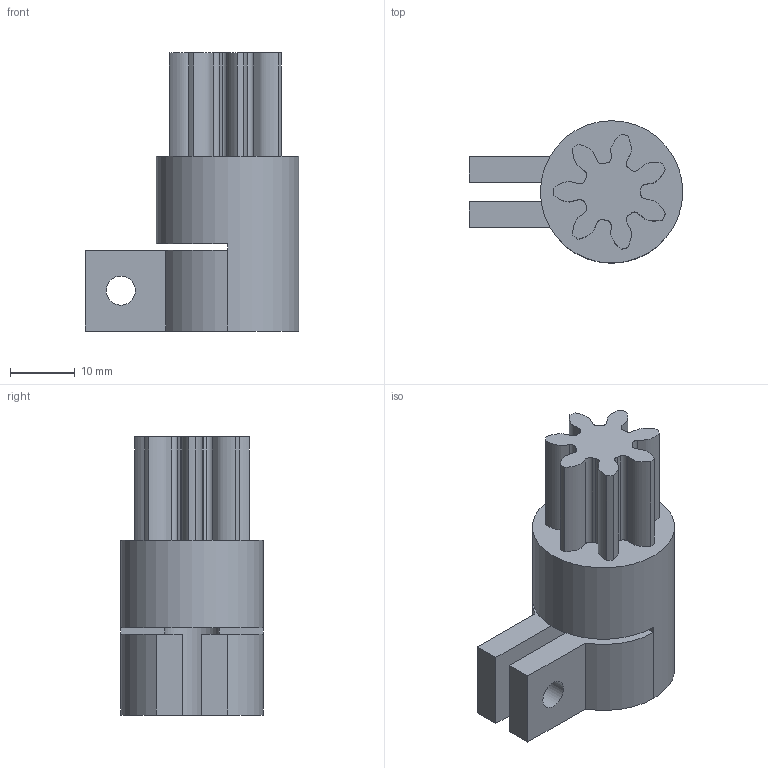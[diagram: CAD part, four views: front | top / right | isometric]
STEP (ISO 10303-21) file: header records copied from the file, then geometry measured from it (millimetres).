
FILE_DESCRIPTION(('STEP AP242 Edition 2','STEP AP242 Edition 2''CAx-IF Rec.Pracs.---Representation and Presentation of Product Manufacturing Information (PMI)---4.0---2014-10-13','STEP AP242 Edition 2''CAx-IF Rec.Pracs.---Representation and Presentation of Product Manufacturing Information (PMI)---4.0---2014-10-13''CAx-IF Rec.Pracs.---3D Tessellated Geometry---0.4---2014-09-14','STEP AP242 Edition 2''CAx-IF Rec.Pracs.---Representation and Presentation of Product Manufacturing Information (PMI)---4.0---2014-10-13''CAx-IF Rec.Pracs.---3D Tessellated Geometry---0.4---2014-09-14''2;1','STEP AP242 Edition 2''CAx-IF Rec.Pracs.---Representation and Presentation of Product Manufacturing Information (PMI)---4.0---2014-10-13''CAx-IF Rec.Pracs.---3D Tessellated Geometry---0.4---2014-09-14''2;1''CAx-IF Rec.Pracs.---User Defined Attributes---1.5---2016-08-15'),'2;1');
FILE_NAME('/vol/tmp/translate-15633814290259107806/7tGear2 - motorGeara.step','2026-03-05T22:41:32',(''),(''),'ST-DEVELOPER v20','ONSHAPE BY PTC INC, 1.211',' ');
FILE_SCHEMA(('AP242_MANAGED_MODEL_BASED_3D_ENGINEERING_MIM_LF { 1 0 10303 442 3 1 4 }'));
Length unit declared in the file: metre
Products named in the file (1): motorGeara
Bounding box: 33 x 22 x 43 mm (x, y, z)
Volume: 11792.1 mm3; surface area: 5828.1 mm2
Topology: 1 solids, 1 shells, 63 faces, 178 edges, 118 vertices
Faces by surface type: cylinder 34, plane 15, bspline 14
Full cylindrical faces by diameter (mm): 4.5 x2, 8.5 x1, 22 x1
Entity records: 3718 total; most frequent: CARTESIAN_POINT 2150, ORIENTED_EDGE 336, DIRECTION 306, EDGE_CURVE 168, AXIS2_PLACEMENT_3D 118, VERTEX_POINT 114, LINE 70, VECTOR 70
